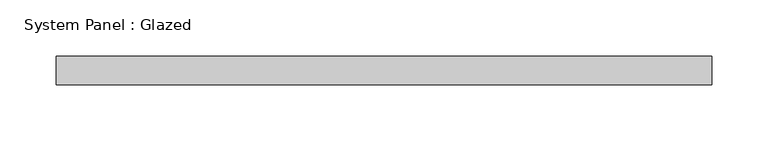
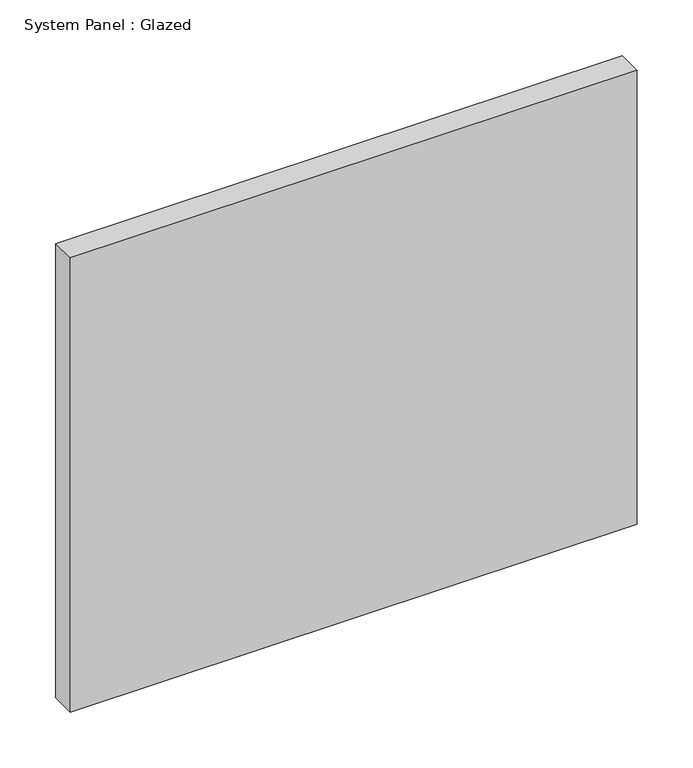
"""IFC4 building model written with IfcOpenShell, lengths in millimetres: plate geometry, System Panel : Glazed."""

import ifcopenshell
import ifcopenshell.guid

model = None  # the IFC model being written
_history = None  # IfcOwnerHistory: only IFC2X3 demands one
_inside = {}  # id of a spatial element -> (the spatial element, [elements in it])
_under = {}  # id of a project, library or spatial element -> (it, [spatial elements below it])
_declared = {}  # id of a project -> (the project, [libraries it declares])
_typed = {}  # id of a type object -> (the type object, [elements of that type])
_made_of = {}  # id of a material, layer set ... -> (it, [elements and type objects made of it])


def new_model(schema):
    """Start an empty IFC model of exactly this schema.

    Asked for "IFC4X3", IfcOpenShell would pick the latest addendum, in which some entities
    have other attributes; the version numbers below select the first issue.
    IFC2X3 requires an IfcOwnerHistory on every rooted entity: one is made here for all.
    """
    global model, _history
    if schema == "IFC4X3":
        model = ifcopenshell.file(schema_version=(4, 3, 0, 0))
    else:
        model = ifcopenshell.file(schema=schema)
    _inside.clear()
    _under.clear()
    _declared.clear()
    _typed.clear()
    _made_of.clear()
    _history = None
    if model.schema == "IFC2X3":
        org = make("IfcOrganization", Name="unknown")
        user = make(
            "IfcPersonAndOrganization",
            ThePerson=make("IfcPerson", FamilyName="unknown"),
            TheOrganization=org,
        )
        app = make(
            "IfcApplication",
            ApplicationDeveloper=org,
            Version="unknown",
            ApplicationFullName="unknown",
            ApplicationIdentifier="unknown",
        )
        _history = make(
            "IfcOwnerHistory",
            OwningUser=user,
            OwningApplication=app,
            ChangeAction="ADDED",
            CreationDate=0,
        )
    return model


def make(cls, **values):
    """One entity of the class cls with the attributes given. An attribute that is None is left unset."""
    return model.create_entity(
        cls, **{name: value for name, value in values.items() if value is not None}
    )


def rooted(cls, **values):
    """An entity with a GlobalId (a new one), such as an element, a storey or a relation."""
    return make(cls, GlobalId=ifcopenshell.guid.new(), OwnerHistory=_history, **values)


def si_unit(unit_type, name, prefix=None):
    """IfcSIUnit, for example si_unit("LENGTHUNIT", "METRE", prefix="MILLI")."""
    return make("IfcSIUnit", UnitType=unit_type, Prefix=prefix, Name=name)


def assignment(units):
    """IfcUnitAssignment: the units of a project."""
    return None if units is None else make("IfcUnitAssignment", Units=units)


def point(xyz):
    """IfcCartesianPoint."""
    return None if xyz is None else make("IfcCartesianPoint", Coordinates=xyz)


def direction(xyz):
    """IfcDirection."""
    return None if xyz is None else make("IfcDirection", DirectionRatios=xyz)


def frame(location, z_axis=None, x_axis=None):
    """IfcAxis2Placement3D, a coordinate frame: its origin and axes. An axis left out is left unset."""
    return make(
        "IfcAxis2Placement3D",
        Location=point(location),
        Axis=direction(z_axis),
        RefDirection=direction(x_axis),
    )


def origin():
    """The frame at (0, 0, 0) with its axes left unset."""
    return frame((0.0, 0.0, 0.0))


def origin_with_axes():
    """The frame at (0, 0, 0) with the z axis (0, 0, 1) and the x axis (1, 0, 0) written out."""
    return frame((0.0, 0.0, 0.0), z_axis=(0.0, 0.0, 1.0), x_axis=(1.0, 0.0, 0.0))


def place(relative_to, where):
    """IfcLocalPlacement: puts the frame where relative to a parent placement (None: the world)."""
    return make(
        "IfcLocalPlacement", PlacementRelTo=relative_to, RelativePlacement=where
    )


def context(
    kind, dimensions, precision=None, world=None, true_north=None, identifier=None
):
    """IfcGeometricRepresentationContext, for example the 3D "Model" context."""
    return make(
        "IfcGeometricRepresentationContext",
        ContextIdentifier=identifier,
        ContextType=kind,
        CoordinateSpaceDimension=dimensions,
        Precision=precision,
        WorldCoordinateSystem=world,
        TrueNorth=true_north,
    )


def project(units=None, contexts=None):
    """IfcProject with its units and contexts."""
    return rooted(
        "IfcProject",
        Name="project",
        RepresentationContexts=contexts,
        UnitsInContext=assignment(units),
    )


def spatial(cls, under=None, at=None, **own):
    """A site, building, storey or space (cls), placed at a placement, below another one or the project."""
    s = rooted(cls, ObjectPlacement=at, **own)
    if under is not None:
        _under.setdefault(under.id(), (under, []))[1].append(s)
    return s


def polyline(points):
    """IfcPolyline through the points."""
    return make("IfcPolyline", Points=[point(p) for p in points])


def outline(outer, holes=None, kind="AREA"):
    """IfcArbitraryClosedProfileDef: a profile drawn as a closed curve; with holes, ...WithVoids."""
    if holes is None:
        return make("IfcArbitraryClosedProfileDef", ProfileType=kind, OuterCurve=outer)
    return make(
        "IfcArbitraryProfileDefWithVoids",
        ProfileType=kind,
        OuterCurve=outer,
        InnerCurves=holes,
    )


def extrude(swept, where, along, depth):
    """IfcExtrudedAreaSolid: the profile swept, set in the frame where, extruded along a direction by depth."""
    return make(
        "IfcExtrudedAreaSolid",
        SweptArea=swept,
        Position=where,
        ExtrudedDirection=direction(along),
        Depth=depth,
    )


def shape(context_of_items, identifier, shape_type, items):
    """IfcShapeRepresentation: the items that make up one representation, for example the "Body"."""
    return make(
        "IfcShapeRepresentation",
        ContextOfItems=context_of_items,
        RepresentationIdentifier=identifier,
        RepresentationType=shape_type,
        Items=items,
    )


def source(mapping_origin, context_of_items, identifier, shape_type, items):
    """IfcRepresentationMap: a shape defined once, which mapped items show again and again."""
    return make(
        "IfcRepresentationMap",
        MappingOrigin=mapping_origin,
        MappedRepresentation=shape(context_of_items, identifier, shape_type, items),
    )


def transform(
    local_origin,
    x_axis=None,
    y_axis=None,
    z_axis=None,
    scale=None,
    scale2=None,
    scale3=None,
    uniform=True,
):
    """IfcCartesianTransformationOperator3D, or its non-uniform kind. x_axis, y_axis, z_axis: its Axis1, 2, 3."""
    if uniform:
        return make(
            "IfcCartesianTransformationOperator3D",
            Axis1=direction(x_axis),
            Axis2=direction(y_axis),
            LocalOrigin=point(local_origin),
            Scale=scale,
            Axis3=direction(z_axis),
        )
    return make(
        "IfcCartesianTransformationOperator3DnonUniform",
        Axis1=direction(x_axis),
        Axis2=direction(y_axis),
        LocalOrigin=point(local_origin),
        Scale=scale,
        Axis3=direction(z_axis),
        Scale2=scale2,
        Scale3=scale3,
    )


def mapped(mapping_source, mapping_target):
    """IfcMappedItem: shows the shape of a source again, moved by a transform."""
    return make(
        "IfcMappedItem", MappingSource=mapping_source, MappingTarget=mapping_target
    )


def made_of(thing, what):
    """Note that an element or type object is made of a material, layer set ...; save() writes the relation."""
    if what is not None:
        _made_of.setdefault(what.id(), (what, []))[1].append(thing)
    return thing


def element(
    cls,
    number,
    at=None,
    inside=None,
    cuts=None,
    type_object=None,
    material=None,
    context=None,
    identifier="Body",
    shape_type=None,
    held_by="IfcProductDefinitionShape",
    body=None,
    shapes=None,
    **own,
):
    """One element of the class cls, such as IfcWall. Its Tag is "e" and its number.

    at: its placement. inside: the storey or other place that contains it. cuts: it is an
    opening in that element (IfcRelVoidsElement). A single representation is given by context,
    identifier, shape_type and body (its items); several are given by shapes. held_by: the class
    of the entity that holds the representations. save() writes the other relations.
    """
    e = rooted(cls, Tag="e%d" % number, ObjectPlacement=at, **own)
    if body is not None:
        shapes = [shape(context, identifier, shape_type, body)]
    if shapes is not None:
        e.Representation = make(held_by, Representations=shapes)
    if inside is not None:
        _inside.setdefault(inside.id(), (inside, []))[1].append(e)
    if cuts is not None:
        rooted(
            "IfcRelVoidsElement", RelatingBuildingElement=cuts, RelatedOpeningElement=e
        )
    if type_object is not None:
        _typed.setdefault(type_object.id(), (type_object, []))[1].append(e)
    return made_of(e, material)


def aggregate(whole, parts):
    """IfcRelAggregates: a whole, such as a stair, and the parts it consists of."""
    return rooted("IfcRelAggregates", RelatingObject=whole, RelatedObjects=parts)


def save(model, path):
    """Write the relations noted so far, then the file.

    IfcRelAggregates (storeys below a building ...), IfcRelContainedInSpatialStructure (elements
    in a storey), IfcRelDefinesByType, IfcRelAssociatesMaterial and IfcRelDeclares: one each for
    every whole, place, type object, material and project.
    """
    for whole, parts in _under.values():
        aggregate(whole, parts)
    for where, things in _inside.values():
        rooted(
            "IfcRelContainedInSpatialStructure",
            RelatedElements=things,
            RelatingStructure=where,
        )
    for kind, things in _typed.values():
        rooted("IfcRelDefinesByType", RelatedObjects=things, RelatingType=kind)
    for what, things in _made_of.values():
        rooted("IfcRelAssociatesMaterial", RelatedObjects=things, RelatingMaterial=what)
    for by, libraries in _declared.values():
        rooted("IfcRelDeclares", RelatingContext=by, RelatedDefinitions=libraries)
    model.write(path)


def system_panel_glazed_52d05554(model_context):
    return source(origin(), model_context, "Body", "SweptSolid", [
        extrude(outline(polyline([(292.4404829, -12.7), (-292.4404829, -12.7), (-292.4404829, 12.7), (292.4404829, 12.7), (292.4404829, -12.7)])), origin_with_axes(), (0.0, 0.0, 1.0), 495.3),
    ])


if __name__ == "__main__":
    model = new_model("IFC4")
    model_context = context("Model", 3, world=origin())
    ifc_project = project(units=[si_unit("LENGTHUNIT", "METRE", prefix="MILLI")], contexts=[model_context])
    site = spatial("IfcSite", under=ifc_project)
    building = spatial("IfcBuilding", under=site)
    placement = place(None, origin())
    system_panel_glazed_shape = system_panel_glazed_52d05554(model_context)
    element("IfcPlate", 1, ObjectType="System Panel : Glazed", at=placement, inside=building, context=model_context, shape_type="MappedRepresentation", body=[
        mapped(system_panel_glazed_shape, transform((0.0, 0.0, 0.0), x_axis=(1.0, 0.0, 0.0), y_axis=(0.0, 1.0, 0.0), z_axis=(0.0, 0.0, 1.0))),
    ])
    save(model, "model.ifc")
